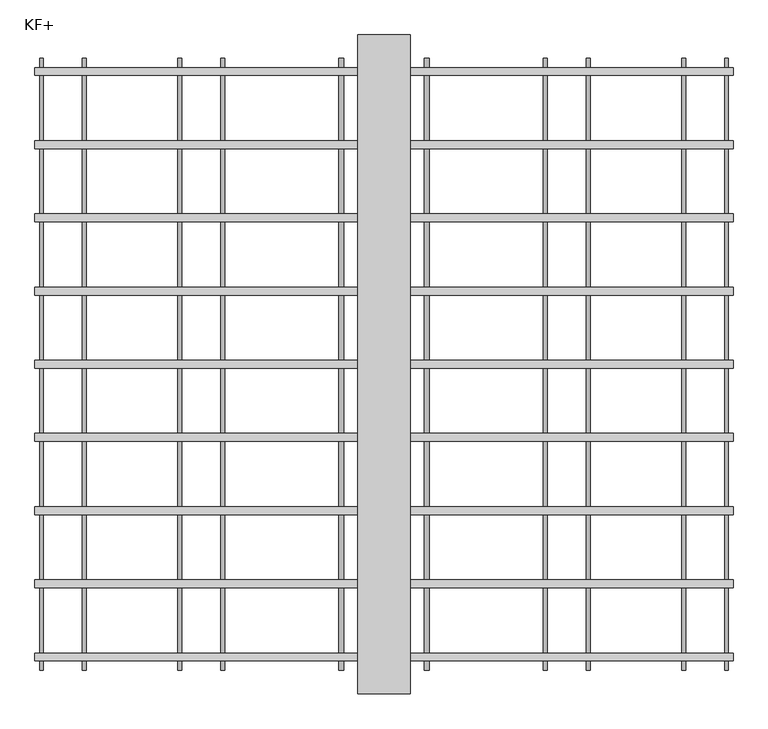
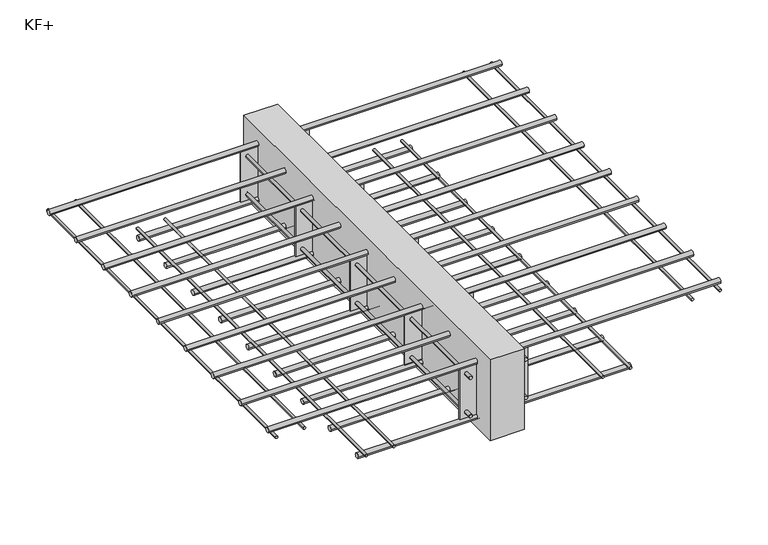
"""IFC4 building model written with IfcOpenShell, lengths in millimetres: proxy geometry, ACINOXplus_Typenreihe_K : KF+."""

from ifc_helpers import new_model, si_unit, point, frame, frame_2d, origin, place, context, project, spatial, polyline, circle_curve, trimmed, segment, composite_curve, outline, extrude, source, transform, mapped, element, save


def kf_8b9c6b6a(model_context):
    return source(origin(), model_context, "Body", "SweptSolid", [
        extrude(outline(polyline([(40.0, 500.0), (40.0, -500.0), (-40.0, -500.0), (-40.0, 500.0), (40.0, 500.0)])), frame((0.0, 0.0, -200.0), z_axis=(0.0, 0.0, 1.0), x_axis=(1.0, 0.0, 0.0)), (0.0, 0.0, 1.0), 200.0),
        extrude(outline(polyline([(80.0, -220.7222222), (80.0, -223.7222222), (-80.0, -223.7222222), (-80.0, -220.7222222), (80.0, -220.7222222)])), frame((0.0, 0.0, -167.0), z_axis=(0.0, 0.0, 1.0), x_axis=(1.0, 0.0, 0.0)), (0.0, 0.0, 1.0), 125.0),
        extrude(outline(polyline([(80.0, 1.5), (80.0, -1.5), (-80.0, -1.5), (-80.0, 1.5), (80.0, 1.5)])), frame((0.0, 0.0, -167.0), z_axis=(0.0, 0.0, 1.0), x_axis=(1.0, 0.0, 0.0)), (0.0, 0.0, 1.0), 125.0),
        extrude(outline(polyline([(80.0, 223.7222222), (80.0, 220.7222222), (-80.0, 220.7222222), (-80.0, 223.7222222), (80.0, 223.7222222)])), frame((0.0, 0.0, -167.0), z_axis=(0.0, 0.0, 1.0), x_axis=(1.0, 0.0, 0.0)), (0.0, 0.0, 1.0), 125.0),
        extrude(outline(polyline([(80.0, -442.9444444), (80.0, -445.9444444), (-80.0, -445.9444444), (-80.0, -442.9444444), (80.0, -442.9444444)])), frame((0.0, 0.0, -167.0), z_axis=(0.0, 0.0, 1.0), x_axis=(1.0, 0.0, 0.0)), (0.0, 0.0, 1.0), 125.0),
        extrude(outline(polyline([(80.0, 445.9444444), (80.0, 442.9444444), (-80.0, 442.9444444), (-80.0, 445.9444444), (80.0, 445.9444444)])), frame((0.0, 0.0, -167.0), z_axis=(0.0, 0.0, 1.0), x_axis=(1.0, 0.0, 0.0)), (0.0, 0.0, 1.0), 125.0),
        extrude(outline(composite_curve([segment(trimmed(circle_curve(frame_2d((-152.0, -65.0)), 4.0), [point((-152.0, -61.0))], [point((-152.0, -69.0))], False, "CARTESIAN"), True, "CONTINUOUS"), segment(trimmed(circle_curve(frame_2d((-152.0, -65.0)), 4.0), [point((-152.0, -69.0))], [point((-152.0, -61.0))], False, "CARTESIAN"), True, "CONTINUOUS")], self_intersect=False)), frame((0.0, -464.4444444, 0.0), z_axis=(0.0, 1.0, 0.0), x_axis=(0.0, 0.0, 1.0)), (0.0, 0.0, 1.0), 18.5),
        extrude(outline(composite_curve([segment(trimmed(circle_curve(frame_2d((-152.0, -65.0)), 4.0), [point((-152.0, -69.0))], [point((-152.0, -61.0))], False, "CARTESIAN"), True, "CONTINUOUS"), segment(trimmed(circle_curve(frame_2d((-152.0, -65.0)), 4.0), [point((-152.0, -61.0))], [point((-152.0, -69.0))], False, "CARTESIAN"), True, "CONTINUOUS")], self_intersect=False)), frame((0.0, -442.9444444, 0.0), z_axis=(0.0, 1.0, 0.0), x_axis=(0.0, 0.0, 1.0)), (0.0, 0.0, 1.0), 663.6666667),
        extrude(outline(composite_curve([segment(trimmed(circle_curve(frame_2d((-152.0, -65.0)), 4.0), [point((-152.0, -69.0))], [point((-152.0, -61.0))], False, "CARTESIAN"), True, "CONTINUOUS"), segment(trimmed(circle_curve(frame_2d((-152.0, -65.0)), 4.0), [point((-152.0, -61.0))], [point((-152.0, -69.0))], False, "CARTESIAN"), True, "CONTINUOUS")], self_intersect=False)), frame((0.0, 445.9444444, 0.0), z_axis=(0.0, 1.0, 0.0), x_axis=(0.0, 0.0, 1.0)), (0.0, 0.0, 1.0), 18.5),
        extrude(outline(composite_curve([segment(trimmed(circle_curve(frame_2d((-152.0, -65.0)), 4.0), [point((-152.0, -69.0))], [point((-152.0, -61.0))], False, "CARTESIAN"), True, "CONTINUOUS"), segment(trimmed(circle_curve(frame_2d((-152.0, -65.0)), 4.0), [point((-152.0, -61.0))], [point((-152.0, -69.0))], False, "CARTESIAN"), True, "CONTINUOUS")], self_intersect=False)), frame((0.0, 223.7222222, 0.0), z_axis=(0.0, 1.0, 0.0), x_axis=(0.0, 0.0, 1.0)), (0.0, 0.0, 1.0), 219.2222222),
        extrude(outline(composite_curve([segment(trimmed(circle_curve(frame_2d((-152.0, 65.0)), 4.0), [point((-152.0, 69.0))], [point((-152.0, 61.0))], False, "CARTESIAN"), True, "CONTINUOUS"), segment(trimmed(circle_curve(frame_2d((-152.0, 65.0)), 4.0), [point((-152.0, 61.0))], [point((-152.0, 69.0))], False, "CARTESIAN"), True, "CONTINUOUS")], self_intersect=False)), frame((0.0, -464.4444444, 0.0), z_axis=(0.0, 1.0, 0.0), x_axis=(0.0, 0.0, 1.0)), (0.0, 0.0, 1.0), 18.5),
        extrude(outline(composite_curve([segment(trimmed(circle_curve(frame_2d((-152.0, 65.0)), 4.0), [point((-152.0, 61.0))], [point((-152.0, 69.0))], False, "CARTESIAN"), True, "CONTINUOUS"), segment(trimmed(circle_curve(frame_2d((-152.0, 65.0)), 4.0), [point((-152.0, 69.0))], [point((-152.0, 61.0))], False, "CARTESIAN"), True, "CONTINUOUS")], self_intersect=False)), frame((0.0, -442.9444444, 0.0), z_axis=(0.0, 1.0, 0.0), x_axis=(0.0, 0.0, 1.0)), (0.0, 0.0, 1.0), 663.6666667),
        extrude(outline(composite_curve([segment(trimmed(circle_curve(frame_2d((-152.0, 65.0)), 4.0), [point((-152.0, 61.0))], [point((-152.0, 69.0))], False, "CARTESIAN"), True, "CONTINUOUS"), segment(trimmed(circle_curve(frame_2d((-152.0, 65.0)), 4.0), [point((-152.0, 69.0))], [point((-152.0, 61.0))], False, "CARTESIAN"), True, "CONTINUOUS")], self_intersect=False)), frame((0.0, 445.9444444, 0.0), z_axis=(0.0, 1.0, 0.0), x_axis=(0.0, 0.0, 1.0)), (0.0, 0.0, 1.0), 18.5),
        extrude(outline(composite_curve([segment(trimmed(circle_curve(frame_2d((-152.0, 65.0)), 4.0), [point((-152.0, 61.0))], [point((-152.0, 69.0))], False, "CARTESIAN"), True, "CONTINUOUS"), segment(trimmed(circle_curve(frame_2d((-152.0, 65.0)), 4.0), [point((-152.0, 69.0))], [point((-152.0, 61.0))], False, "CARTESIAN"), True, "CONTINUOUS")], self_intersect=False)), frame((0.0, 223.7222222, 0.0), z_axis=(0.0, 1.0, 0.0), x_axis=(0.0, 0.0, 1.0)), (0.0, 0.0, 1.0), 219.2222222),
        extrude(outline(composite_curve([segment(trimmed(circle_curve(frame_2d((-57.0, -65.0)), 4.0), [point((-57.0, -61.0))], [point((-57.0, -69.0))], False, "CARTESIAN"), True, "CONTINUOUS"), segment(trimmed(circle_curve(frame_2d((-57.0, -65.0)), 4.0), [point((-57.0, -69.0))], [point((-57.0, -61.0))], False, "CARTESIAN"), True, "CONTINUOUS")], self_intersect=False)), frame((0.0, -464.4444444, 0.0), z_axis=(0.0, 1.0, 0.0), x_axis=(0.0, 0.0, 1.0)), (0.0, 0.0, 1.0), 18.5),
        extrude(outline(composite_curve([segment(trimmed(circle_curve(frame_2d((-57.0, -65.0)), 4.0), [point((-57.0, -69.0))], [point((-57.0, -61.0))], False, "CARTESIAN"), True, "CONTINUOUS"), segment(trimmed(circle_curve(frame_2d((-57.0, -65.0)), 4.0), [point((-57.0, -61.0))], [point((-57.0, -69.0))], False, "CARTESIAN"), True, "CONTINUOUS")], self_intersect=False)), frame((0.0, -442.9444444, 0.0), z_axis=(0.0, 1.0, 0.0), x_axis=(0.0, 0.0, 1.0)), (0.0, 0.0, 1.0), 663.6666667),
        extrude(outline(composite_curve([segment(trimmed(circle_curve(frame_2d((-57.0, -65.0)), 4.0), [point((-57.0, -69.0))], [point((-57.0, -61.0))], False, "CARTESIAN"), True, "CONTINUOUS"), segment(trimmed(circle_curve(frame_2d((-57.0, -65.0)), 4.0), [point((-57.0, -61.0))], [point((-57.0, -69.0))], False, "CARTESIAN"), True, "CONTINUOUS")], self_intersect=False)), frame((0.0, 445.9444444, 0.0), z_axis=(0.0, 1.0, 0.0), x_axis=(0.0, 0.0, 1.0)), (0.0, 0.0, 1.0), 18.5),
        extrude(outline(composite_curve([segment(trimmed(circle_curve(frame_2d((-57.0, -65.0)), 4.0), [point((-57.0, -69.0))], [point((-57.0, -61.0))], False, "CARTESIAN"), True, "CONTINUOUS"), segment(trimmed(circle_curve(frame_2d((-57.0, -65.0)), 4.0), [point((-57.0, -61.0))], [point((-57.0, -69.0))], False, "CARTESIAN"), True, "CONTINUOUS")], self_intersect=False)), frame((0.0, 223.7222222, 0.0), z_axis=(0.0, 1.0, 0.0), x_axis=(0.0, 0.0, 1.0)), (0.0, 0.0, 1.0), 219.2222222),
        extrude(outline(composite_curve([segment(trimmed(circle_curve(frame_2d((-57.0, 65.0)), 4.0), [point((-57.0, 69.0))], [point((-57.0, 61.0))], False, "CARTESIAN"), True, "CONTINUOUS"), segment(trimmed(circle_curve(frame_2d((-57.0, 65.0)), 4.0), [point((-57.0, 61.0))], [point((-57.0, 69.0))], False, "CARTESIAN"), True, "CONTINUOUS")], self_intersect=False)), frame((0.0, -464.4444444, 0.0), z_axis=(0.0, 1.0, 0.0), x_axis=(0.0, 0.0, 1.0)), (0.0, 0.0, 1.0), 18.5),
        extrude(outline(composite_curve([segment(trimmed(circle_curve(frame_2d((-57.0, 65.0)), 4.0), [point((-57.0, 61.0))], [point((-57.0, 69.0))], False, "CARTESIAN"), True, "CONTINUOUS"), segment(trimmed(circle_curve(frame_2d((-57.0, 65.0)), 4.0), [point((-57.0, 69.0))], [point((-57.0, 61.0))], False, "CARTESIAN"), True, "CONTINUOUS")], self_intersect=False)), frame((0.0, -442.9444444, 0.0), z_axis=(0.0, 1.0, 0.0), x_axis=(0.0, 0.0, 1.0)), (0.0, 0.0, 1.0), 663.6666667),
        extrude(outline(composite_curve([segment(trimmed(circle_curve(frame_2d((-57.0, 65.0)), 4.0), [point((-57.0, 61.0))], [point((-57.0, 69.0))], False, "CARTESIAN"), True, "CONTINUOUS"), segment(trimmed(circle_curve(frame_2d((-57.0, 65.0)), 4.0), [point((-57.0, 69.0))], [point((-57.0, 61.0))], False, "CARTESIAN"), True, "CONTINUOUS")], self_intersect=False)), frame((0.0, 445.9444444, 0.0), z_axis=(0.0, 1.0, 0.0), x_axis=(0.0, 0.0, 1.0)), (0.0, 0.0, 1.0), 18.5),
        extrude(outline(composite_curve([segment(trimmed(circle_curve(frame_2d((-57.0, 65.0)), 4.0), [point((-57.0, 61.0))], [point((-57.0, 69.0))], False, "CARTESIAN"), True, "CONTINUOUS"), segment(trimmed(circle_curve(frame_2d((-57.0, 65.0)), 4.0), [point((-57.0, 69.0))], [point((-57.0, 61.0))], False, "CARTESIAN"), True, "CONTINUOUS")], self_intersect=False)), frame((0.0, 223.7222222, 0.0), z_axis=(0.0, 1.0, 0.0), x_axis=(0.0, 0.0, 1.0)), (0.0, 0.0, 1.0), 219.2222222),
        extrude(outline(composite_curve([segment(trimmed(circle_curve(frame_2d((222.2222222, -173.0)), 6.0), [point((216.2222222, -173.0))], [point((228.2222222, -173.0))], False, "CARTESIAN"), True, "CONTINUOUS"), segment(trimmed(circle_curve(frame_2d((222.2222222, -173.0)), 6.0), [point((228.2222222, -173.0))], [point((216.2222222, -173.0))], False, "CARTESIAN"), True, "CONTINUOUS")], self_intersect=False)), frame((-320.0, 0.0, 0.0), z_axis=(1.0, 0.0, 0.0), x_axis=(0.0, 1.0, 0.0)), (0.0, 0.0, 1.0), 640.0),
        extrude(outline(composite_curve([segment(trimmed(circle_curve(frame_2d((111.1111111, -173.0)), 6.0), [point((105.1111111, -173.0))], [point((117.1111111, -173.0))], False, "CARTESIAN"), True, "CONTINUOUS"), segment(trimmed(circle_curve(frame_2d((111.1111111, -173.0)), 6.0), [point((117.1111111, -173.0))], [point((105.1111111, -173.0))], False, "CARTESIAN"), True, "CONTINUOUS")], self_intersect=False)), frame((-320.0, 0.0, 0.0), z_axis=(1.0, 0.0, 0.0), x_axis=(0.0, 1.0, 0.0)), (0.0, 0.0, 1.0), 640.0),
        extrude(outline(composite_curve([segment(trimmed(circle_curve(frame_2d((0.0, -173.0)), 6.0), [point((-6.0, -173.0))], [point((6.0, -173.0))], False, "CARTESIAN"), True, "CONTINUOUS"), segment(trimmed(circle_curve(frame_2d((0.0, -173.0)), 6.0), [point((6.0, -173.0))], [point((-6.0, -173.0))], False, "CARTESIAN"), True, "CONTINUOUS")], self_intersect=False)), frame((-320.0, 0.0, 0.0), z_axis=(1.0, 0.0, 0.0), x_axis=(0.0, 1.0, 0.0)), (0.0, 0.0, 1.0), 640.0),
        extrude(outline(composite_curve([segment(trimmed(circle_curve(frame_2d((-111.1111111, -173.0)), 6.0), [point((-117.1111111, -173.0))], [point((-105.1111111, -173.0))], False, "CARTESIAN"), True, "CONTINUOUS"), segment(trimmed(circle_curve(frame_2d((-111.1111111, -173.0)), 6.0), [point((-105.1111111, -173.0))], [point((-117.1111111, -173.0))], False, "CARTESIAN"), True, "CONTINUOUS")], self_intersect=False)), frame((-320.0, 0.0, 0.0), z_axis=(1.0, 0.0, 0.0), x_axis=(0.0, 1.0, 0.0)), (0.0, 0.0, 1.0), 640.0),
        extrude(outline(composite_curve([segment(trimmed(circle_curve(frame_2d((-222.2222222, -173.0)), 6.0), [point((-228.2222222, -173.0))], [point((-216.2222222, -173.0))], False, "CARTESIAN"), True, "CONTINUOUS"), segment(trimmed(circle_curve(frame_2d((-222.2222222, -173.0)), 6.0), [point((-216.2222222, -173.0))], [point((-228.2222222, -173.0))], False, "CARTESIAN"), True, "CONTINUOUS")], self_intersect=False)), frame((-320.0, 0.0, 0.0), z_axis=(1.0, 0.0, 0.0), x_axis=(0.0, 1.0, 0.0)), (0.0, 0.0, 1.0), 640.0),
        extrude(outline(composite_curve([segment(trimmed(circle_curve(frame_2d((333.3333333, -173.0)), 6.0), [point((327.3333333, -173.0))], [point((339.3333333, -173.0))], False, "CARTESIAN"), True, "CONTINUOUS"), segment(trimmed(circle_curve(frame_2d((333.3333333, -173.0)), 6.0), [point((339.3333333, -173.0))], [point((327.3333333, -173.0))], False, "CARTESIAN"), True, "CONTINUOUS")], self_intersect=False)), frame((-320.0, 0.0, 0.0), z_axis=(1.0, 0.0, 0.0), x_axis=(0.0, 1.0, 0.0)), (0.0, 0.0, 1.0), 640.0),
        extrude(outline(composite_curve([segment(trimmed(circle_curve(frame_2d((444.4444444, -173.0)), 6.0), [point((438.4444444, -173.0))], [point((450.4444444, -173.0))], False, "CARTESIAN"), True, "CONTINUOUS"), segment(trimmed(circle_curve(frame_2d((444.4444444, -173.0)), 6.0), [point((450.4444444, -173.0))], [point((438.4444444, -173.0))], False, "CARTESIAN"), True, "CONTINUOUS")], self_intersect=False)), frame((-320.0, 0.0, 0.0), z_axis=(1.0, 0.0, 0.0), x_axis=(0.0, 1.0, 0.0)), (0.0, 0.0, 1.0), 640.0),
        extrude(outline(composite_curve([segment(trimmed(circle_curve(frame_2d((-333.3333333, -173.0)), 6.0), [point((-339.3333333, -173.0))], [point((-327.3333333, -173.0))], False, "CARTESIAN"), True, "CONTINUOUS"), segment(trimmed(circle_curve(frame_2d((-333.3333333, -173.0)), 6.0), [point((-327.3333333, -173.0))], [point((-339.3333333, -173.0))], False, "CARTESIAN"), True, "CONTINUOUS")], self_intersect=False)), frame((-320.0, 0.0, 0.0), z_axis=(1.0, 0.0, 0.0), x_axis=(0.0, 1.0, 0.0)), (0.0, 0.0, 1.0), 640.0),
        extrude(outline(composite_curve([segment(trimmed(circle_curve(frame_2d((-444.4444444, -173.0)), 6.0), [point((-450.4444444, -173.0))], [point((-438.4444444, -173.0))], False, "CARTESIAN"), True, "CONTINUOUS"), segment(trimmed(circle_curve(frame_2d((-444.4444444, -173.0)), 6.0), [point((-438.4444444, -173.0))], [point((-450.4444444, -173.0))], False, "CARTESIAN"), True, "CONTINUOUS")], self_intersect=False)), frame((-320.0, 0.0, 0.0), z_axis=(1.0, 0.0, 0.0), x_axis=(0.0, 1.0, 0.0)), (0.0, 0.0, 1.0), 640.0),
        extrude(outline(composite_curve([segment(trimmed(circle_curve(frame_2d((222.2222222, -36.0)), 6.0), [point((216.2222222, -36.0))], [point((228.2222222, -36.0))], False, "CARTESIAN"), True, "CONTINUOUS"), segment(trimmed(circle_curve(frame_2d((222.2222222, -36.0)), 6.0), [point((228.2222222, -36.0))], [point((216.2222222, -36.0))], False, "CARTESIAN"), True, "CONTINUOUS")], self_intersect=False)), frame((-530.0, 0.0, 0.0), z_axis=(1.0, 0.0, 0.0), x_axis=(0.0, 1.0, 0.0)), (0.0, 0.0, 1.0), 1060.0),
        extrude(outline(composite_curve([segment(trimmed(circle_curve(frame_2d((111.1111111, -36.0)), 6.0), [point((105.1111111, -36.0))], [point((117.1111111, -36.0))], False, "CARTESIAN"), True, "CONTINUOUS"), segment(trimmed(circle_curve(frame_2d((111.1111111, -36.0)), 6.0), [point((117.1111111, -36.0))], [point((105.1111111, -36.0))], False, "CARTESIAN"), True, "CONTINUOUS")], self_intersect=False)), frame((-530.0, 0.0, 0.0), z_axis=(1.0, 0.0, 0.0), x_axis=(0.0, 1.0, 0.0)), (0.0, 0.0, 1.0), 1060.0),
        extrude(outline(composite_curve([segment(trimmed(circle_curve(frame_2d((0.0, -36.0)), 6.0), [point((-6.0, -36.0))], [point((6.0, -36.0))], False, "CARTESIAN"), True, "CONTINUOUS"), segment(trimmed(circle_curve(frame_2d((0.0, -36.0)), 6.0), [point((6.0, -36.0))], [point((-6.0, -36.0))], False, "CARTESIAN"), True, "CONTINUOUS")], self_intersect=False)), frame((-530.0, 0.0, 0.0), z_axis=(1.0, 0.0, 0.0), x_axis=(0.0, 1.0, 0.0)), (0.0, 0.0, 1.0), 1060.0),
        extrude(outline(composite_curve([segment(trimmed(circle_curve(frame_2d((-111.1111111, -36.0)), 6.0), [point((-117.1111111, -36.0))], [point((-105.1111111, -36.0))], False, "CARTESIAN"), True, "CONTINUOUS"), segment(trimmed(circle_curve(frame_2d((-111.1111111, -36.0)), 6.0), [point((-105.1111111, -36.0))], [point((-117.1111111, -36.0))], False, "CARTESIAN"), True, "CONTINUOUS")], self_intersect=False)), frame((-530.0, 0.0, 0.0), z_axis=(1.0, 0.0, 0.0), x_axis=(0.0, 1.0, 0.0)), (0.0, 0.0, 1.0), 1060.0),
        extrude(outline(composite_curve([segment(trimmed(circle_curve(frame_2d((-222.2222222, -36.0)), 6.0), [point((-228.2222222, -36.0))], [point((-216.2222222, -36.0))], False, "CARTESIAN"), True, "CONTINUOUS"), segment(trimmed(circle_curve(frame_2d((-222.2222222, -36.0)), 6.0), [point((-216.2222222, -36.0))], [point((-228.2222222, -36.0))], False, "CARTESIAN"), True, "CONTINUOUS")], self_intersect=False)), frame((-530.0, 0.0, 0.0), z_axis=(1.0, 0.0, 0.0), x_axis=(0.0, 1.0, 0.0)), (0.0, 0.0, 1.0), 1060.0),
        extrude(outline(composite_curve([segment(trimmed(circle_curve(frame_2d((333.3333333, -36.0)), 6.0), [point((327.3333333, -36.0))], [point((339.3333333, -36.0))], False, "CARTESIAN"), True, "CONTINUOUS"), segment(trimmed(circle_curve(frame_2d((333.3333333, -36.0)), 6.0), [point((339.3333333, -36.0))], [point((327.3333333, -36.0))], False, "CARTESIAN"), True, "CONTINUOUS")], self_intersect=False)), frame((-530.0, 0.0, 0.0), z_axis=(1.0, 0.0, 0.0), x_axis=(0.0, 1.0, 0.0)), (0.0, 0.0, 1.0), 1060.0),
        extrude(outline(composite_curve([segment(trimmed(circle_curve(frame_2d((444.4444444, -36.0)), 6.0), [point((438.4444444, -36.0))], [point((450.4444444, -36.0))], False, "CARTESIAN"), True, "CONTINUOUS"), segment(trimmed(circle_curve(frame_2d((444.4444444, -36.0)), 6.0), [point((450.4444444, -36.0))], [point((438.4444444, -36.0))], False, "CARTESIAN"), True, "CONTINUOUS")], self_intersect=False)), frame((-530.0, 0.0, 0.0), z_axis=(1.0, 0.0, 0.0), x_axis=(0.0, 1.0, 0.0)), (0.0, 0.0, 1.0), 1060.0),
        extrude(outline(composite_curve([segment(trimmed(circle_curve(frame_2d((-333.3333333, -36.0)), 6.0), [point((-339.3333333, -36.0))], [point((-327.3333333, -36.0))], False, "CARTESIAN"), True, "CONTINUOUS"), segment(trimmed(circle_curve(frame_2d((-333.3333333, -36.0)), 6.0), [point((-327.3333333, -36.0))], [point((-339.3333333, -36.0))], False, "CARTESIAN"), True, "CONTINUOUS")], self_intersect=False)), frame((-530.0, 0.0, 0.0), z_axis=(1.0, 0.0, 0.0), x_axis=(0.0, 1.0, 0.0)), (0.0, 0.0, 1.0), 1060.0),
        extrude(outline(composite_curve([segment(trimmed(circle_curve(frame_2d((-444.4444444, -36.0)), 6.0), [point((-450.4444444, -36.0))], [point((-438.4444444, -36.0))], False, "CARTESIAN"), True, "CONTINUOUS"), segment(trimmed(circle_curve(frame_2d((-444.4444444, -36.0)), 6.0), [point((-438.4444444, -36.0))], [point((-450.4444444, -36.0))], False, "CARTESIAN"), True, "CONTINUOUS")], self_intersect=False)), frame((-530.0, 0.0, 0.0), z_axis=(1.0, 0.0, 0.0), x_axis=(0.0, 1.0, 0.0)), (0.0, 0.0, 1.0), 1060.0),
        extrude(outline(composite_curve([segment(trimmed(circle_curve(frame_2d((-164.0, -310.0)), 3.0), [point((-164.0, -307.0))], [point((-164.0, -313.0))], False, "CARTESIAN"), True, "CONTINUOUS"), segment(trimmed(circle_curve(frame_2d((-164.0, -310.0)), 3.0), [point((-164.0, -313.0))], [point((-164.0, -307.0))], False, "CARTESIAN"), True, "CONTINUOUS")], self_intersect=False)), frame((0.0, -464.4444444, 0.0), z_axis=(0.0, 1.0, 0.0), x_axis=(0.0, 0.0, 1.0)), (0.0, 0.0, 1.0), 928.8888889),
        extrude(outline(composite_curve([segment(trimmed(circle_curve(frame_2d((-164.0, -245.0)), 3.0), [point((-164.0, -242.0))], [point((-164.0, -248.0))], False, "CARTESIAN"), True, "CONTINUOUS"), segment(trimmed(circle_curve(frame_2d((-164.0, -245.0)), 3.0), [point((-164.0, -248.0))], [point((-164.0, -242.0))], False, "CARTESIAN"), True, "CONTINUOUS")], self_intersect=False)), frame((0.0, -464.4444444, 0.0), z_axis=(0.0, 1.0, 0.0), x_axis=(0.0, 0.0, 1.0)), (0.0, 0.0, 1.0), 928.8888889),
        extrude(outline(composite_curve([segment(trimmed(circle_curve(frame_2d((-164.0, 245.0)), 3.0), [point((-164.0, 248.0))], [point((-164.0, 242.0))], False, "CARTESIAN"), True, "CONTINUOUS"), segment(trimmed(circle_curve(frame_2d((-164.0, 245.0)), 3.0), [point((-164.0, 242.0))], [point((-164.0, 248.0))], False, "CARTESIAN"), True, "CONTINUOUS")], self_intersect=False)), frame((0.0, -464.4444444, 0.0), z_axis=(0.0, 1.0, 0.0), x_axis=(0.0, 0.0, 1.0)), (0.0, 0.0, 1.0), 928.8888889),
        extrude(outline(composite_curve([segment(trimmed(circle_curve(frame_2d((-164.0, 310.0)), 3.0), [point((-164.0, 313.0))], [point((-164.0, 307.0))], False, "CARTESIAN"), True, "CONTINUOUS"), segment(trimmed(circle_curve(frame_2d((-164.0, 310.0)), 3.0), [point((-164.0, 307.0))], [point((-164.0, 313.0))], False, "CARTESIAN"), True, "CONTINUOUS")], self_intersect=False)), frame((0.0, -464.4444444, 0.0), z_axis=(0.0, 1.0, 0.0), x_axis=(0.0, 0.0, 1.0)), (0.0, 0.0, 1.0), 928.8888889),
        extrude(outline(composite_curve([segment(trimmed(circle_curve(frame_2d((-45.0, 455.0)), 3.0), [point((-45.0, 458.0))], [point((-45.0, 452.0))], False, "CARTESIAN"), True, "CONTINUOUS"), segment(trimmed(circle_curve(frame_2d((-45.0, 455.0)), 3.0), [point((-45.0, 452.0))], [point((-45.0, 458.0))], False, "CARTESIAN"), True, "CONTINUOUS")], self_intersect=False)), frame((0.0, -464.4444444, 0.0), z_axis=(0.0, 1.0, 0.0), x_axis=(0.0, 0.0, 1.0)), (0.0, 0.0, 1.0), 928.8888889),
        extrude(outline(composite_curve([segment(trimmed(circle_curve(frame_2d((-45.0, 520.0)), 3.0), [point((-45.0, 523.0))], [point((-45.0, 517.0))], False, "CARTESIAN"), True, "CONTINUOUS"), segment(trimmed(circle_curve(frame_2d((-45.0, 520.0)), 3.0), [point((-45.0, 517.0))], [point((-45.0, 523.0))], False, "CARTESIAN"), True, "CONTINUOUS")], self_intersect=False)), frame((0.0, -464.4444444, 0.0), z_axis=(0.0, 1.0, 0.0), x_axis=(0.0, 0.0, 1.0)), (0.0, 0.0, 1.0), 928.8888889),
        extrude(outline(composite_curve([segment(trimmed(circle_curve(frame_2d((-45.0, -520.0)), 3.0), [point((-45.0, -517.0))], [point((-45.0, -523.0))], False, "CARTESIAN"), True, "CONTINUOUS"), segment(trimmed(circle_curve(frame_2d((-45.0, -520.0)), 3.0), [point((-45.0, -523.0))], [point((-45.0, -517.0))], False, "CARTESIAN"), True, "CONTINUOUS")], self_intersect=False)), frame((0.0, -464.4444444, 0.0), z_axis=(0.0, 1.0, 0.0), x_axis=(0.0, 0.0, 1.0)), (0.0, 0.0, 1.0), 928.8888889),
        extrude(outline(composite_curve([segment(trimmed(circle_curve(frame_2d((-45.0, -455.0)), 3.0), [point((-45.0, -452.0))], [point((-45.0, -458.0))], False, "CARTESIAN"), True, "CONTINUOUS"), segment(trimmed(circle_curve(frame_2d((-45.0, -455.0)), 3.0), [point((-45.0, -458.0))], [point((-45.0, -452.0))], False, "CARTESIAN"), True, "CONTINUOUS")], self_intersect=False)), frame((0.0, -464.4444444, 0.0), z_axis=(0.0, 1.0, 0.0), x_axis=(0.0, 0.0, 1.0)), (0.0, 0.0, 1.0), 928.8888889),
    ])


if __name__ == "__main__":
    model = new_model("IFC4")
    model_context = context("Model", 3, world=origin())
    ifc_project = project(units=[si_unit("LENGTHUNIT", "METRE", prefix="MILLI")], contexts=[model_context])
    site = spatial("IfcSite", under=ifc_project)
    building = spatial("IfcBuilding", under=site)
    placement = place(None, origin())
    kf_shape = kf_8b9c6b6a(model_context)
    element("IfcBuildingElementProxy", 1, Name="ACINOXplus_Typenreihe_K : KF+", ObjectType="ACINOXplus_Typenreihe_K : KF+", at=placement, inside=building, context=model_context, shape_type="MappedRepresentation", body=[
        mapped(kf_shape, transform((0.0, 0.0, 0.0), x_axis=(1.0, 0.0, 0.0), y_axis=(0.0, 1.0, 0.0), z_axis=(0.0, 0.0, 1.0))),
    ])
    save(model, "model.ifc")
